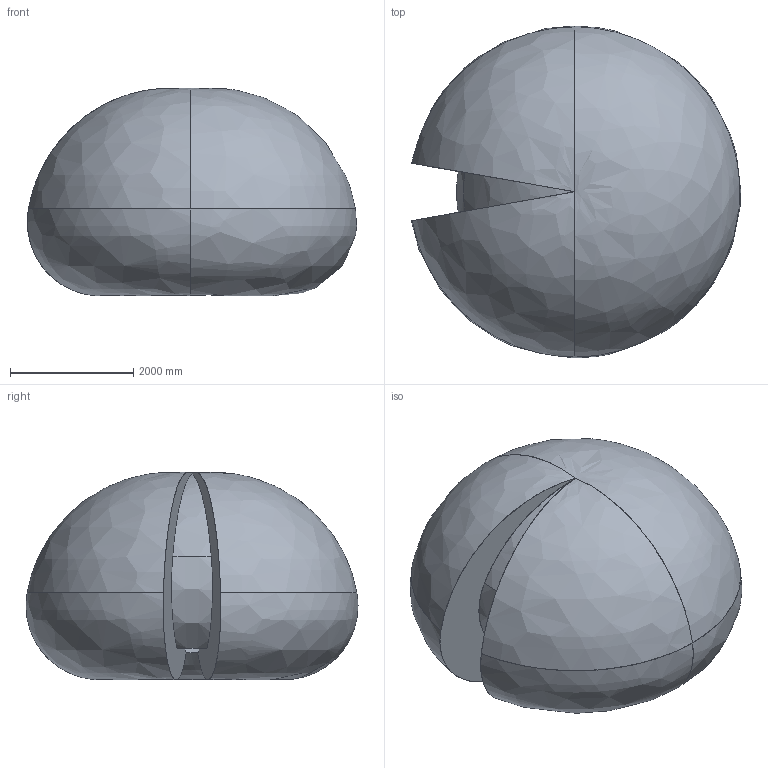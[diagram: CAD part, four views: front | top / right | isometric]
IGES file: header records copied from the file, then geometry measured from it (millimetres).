
Start section: SolidWorks IGES file using analytic representation for surfaces
Global section: file name: C:\DATA\SAP_DOC\LW\IRB 6730\IRB6730-MH3_270kg-270_OC_01_SW_J\Export\IRB6730-MH3_270kg-270_OC_01_IGES_J\IRB6730-MH3_270kg-270_OC_00_Working-space.igs; native system: SolidWorks 2024; preprocessor: SolidWorks 2024; author: SEJOVAS3; date: 260526.113953; units: millimetre
Bounding box: 5339.91 x 5383.04 x 3365.41 mm (x, y, z)
Surface area: 89882574.6 mm2 (no closed solid volume)
Topology: 0 solids, 0 shells, 18 faces, 392 edges, 384 vertices
Faces by surface type: bspline 18
